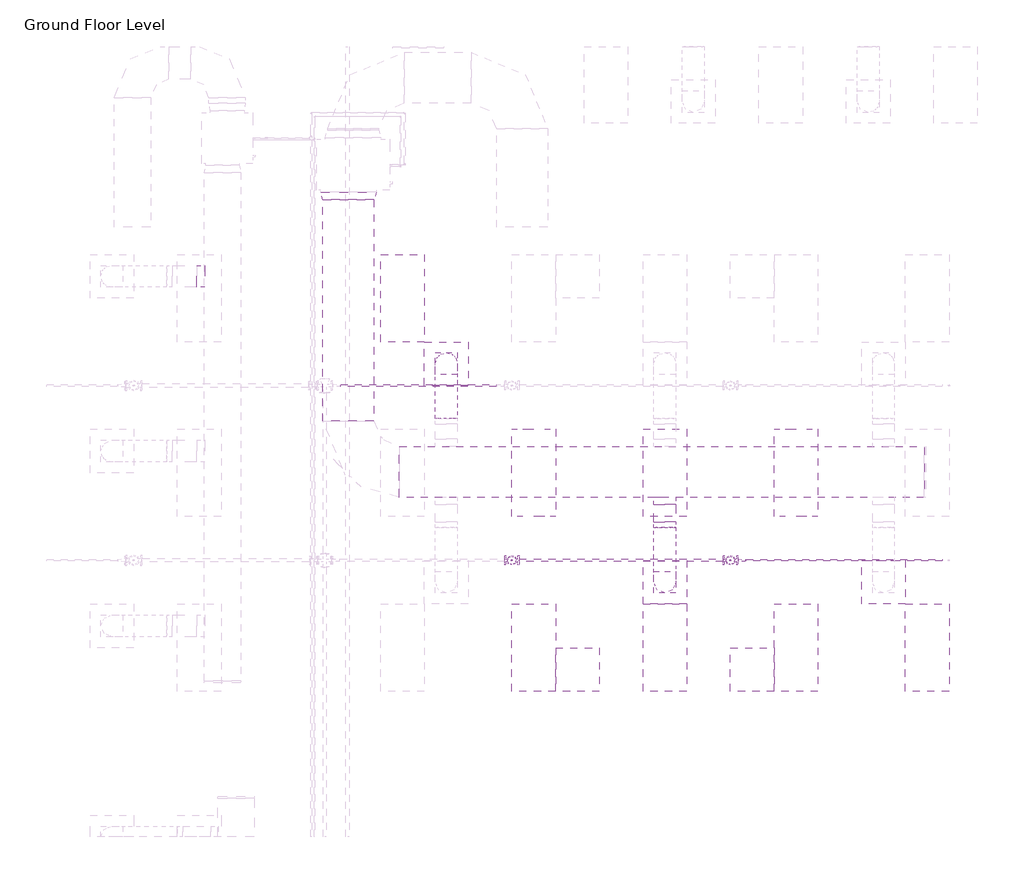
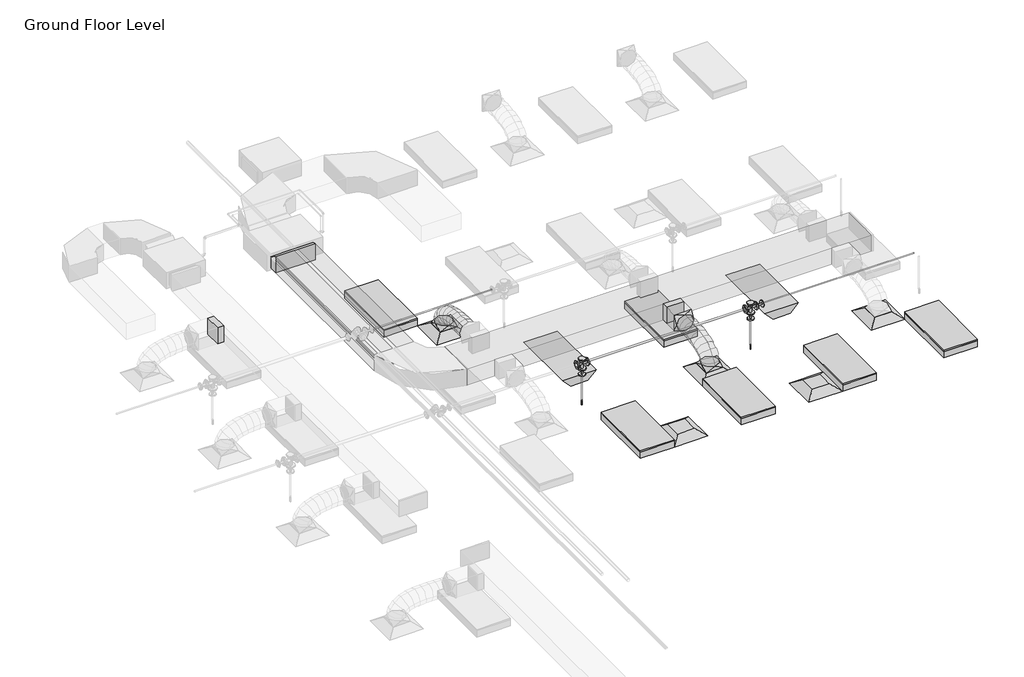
# One storey, part 31 of 74: 8 light fixtures, 6 duct fittings, 5 air terminals, 5 duct segments, 5 pipe fittings, 5 pipe segments, 2 fire suppression terminals.
"""IFC4 building model written with IfcOpenShell, lengths in millimetres."""

from ifc_helpers import new_model, si_unit, point, frame, frame_2d, origin, place, context, project, spatial, polyline, circle_curve, ellipse_curve, trimmed, segment, composite_curve, outline, extrude, transform, mapped, element, save
from ifc_brep_helpers import plane_surface, cylinder_surface, advanced_brep
from components import m_return_diffuser_600_x_600_face_300_x_300_connection_ff221211, m_rectangular_takeoff_standard_2be5eba1, m_rectangular_transition_angle_45_degree_dd3c9227, m_rectangular_to_round_transition_angle_45_degree_641efff0, m_sprinkler_dry_pendent_hosted_15_mm_dry_pendent_9bda8e11, m_emergency_recessed_lighting_fixture_600x1200_277_5b10b25d, m_troffer_light_parabolic_rectangular1_0600x1200mm_4_lamp_86473d4a, m_reducer_flanged_cs_class_150_standard_ccf252ad, m_tee_round_base_flanged_cs_class_150_standard_7e5987a1

model = new_model("IFC4")

# Units and contexts
model_context = context("Model", 3, world=origin())
ifc_project = project(units=[si_unit("LENGTHUNIT", "METRE", prefix="MILLI")], contexts=[model_context])

# Site, building, storey
site = spatial("IfcSite", under=ifc_project)
building = spatial("IfcBuilding", under=site)
storey = spatial("IfcBuildingStorey", under=building, Name="Ground Floor Level", Elevation=900.0)

# Air terminals
placement = place(None, origin())
m_return_diffuser_600_x_600_face_300_x_300_connection_shape = m_return_diffuser_600_x_600_face_300_x_300_connection_ff221211(model_context)
element("IfcAirTerminal", 1, ObjectType="M_Return Diffuser : 600 x 600 Face 300 x 300 Connection", at=placement, inside=storey, context=model_context, shape_type="MappedRepresentation", body=[
    mapped(m_return_diffuser_600_x_600_face_300_x_300_connection_shape, transform((9152.7672395, -14864.7846466, 3650.0), x_axis=(1.0, 0.0, 0.0), y_axis=(0.0, 1.0, 0.0), z_axis=(0.0, 0.0, 1.0))),
])
element("IfcAirTerminal", 2, ObjectType="M_Return Diffuser : 600 x 600 Face 300 x 300 Connection", at=placement, inside=storey, context=model_context, shape_type="MappedRepresentation", body=[
    mapped(m_return_diffuser_600_x_600_face_300_x_300_connection_shape, transform((11552.7672395, -14864.7846466, 3650.0), x_axis=(1.0, 0.0, 0.0), y_axis=(0.0, 1.0, 0.0), z_axis=(0.0, 0.0, 1.0))),
])
element("IfcAirTerminal", 3, ObjectType="M_Supply Diffuser : 600 x 600 Face 300 x 300 Connection", at=placement, inside=storey, context=model_context, shape_type="MappedRepresentation", body=[
    mapped(m_return_diffuser_600_x_600_face_300_x_300_connection_shape, transform((7352.7672395, -10664.7846466, 3650.0), x_axis=(1.0, 0.0, 0.0), y_axis=(0.0, 1.0, 0.0), z_axis=(0.0, 0.0, 1.0))),
])
element("IfcAirTerminal", 4, ObjectType="M_Supply Diffuser : 600 x 600 Face 300 x 300 Connection", at=placement, inside=storey, context=model_context, shape_type="MappedRepresentation", body=[
    mapped(m_return_diffuser_600_x_600_face_300_x_300_connection_shape, transform((10352.7672395, -13664.7846466, 3650.0), x_axis=(1.0, 0.0, 0.0), y_axis=(0.0, 1.0, 0.0), z_axis=(0.0, 0.0, 1.0))),
])
element("IfcAirTerminal", 5, ObjectType="M_Supply Diffuser : 600 x 600 Face 300 x 300 Connection", at=placement, inside=storey, context=model_context, shape_type="MappedRepresentation", body=[
    mapped(m_return_diffuser_600_x_600_face_300_x_300_connection_shape, transform((13352.7672395, -13664.7846466, 3650.0), x_axis=(1.0, 0.0, 0.0), y_axis=(0.0, 1.0, 0.0), z_axis=(0.0, 0.0, 1.0))),
])

# Duct fittings
m_rectangular_takeoff_standard_shape = m_rectangular_takeoff_standard_2be5eba1(model_context)
element("IfcDuctFitting", 6, ObjectType="M_Rectangular Takeoff : Standard", at=placement, inside=storey, context=model_context, shape_type="MappedRepresentation", body=[
    mapped(m_rectangular_takeoff_standard_shape, transform((10352.7672395, -12499.3358641, 4099.9875), x_axis=(0.0, -1.0, 0.0), y_axis=(-1.0, 0.0, 0.0), z_axis=(0.0, 0.0, -1.0))),
])
element("IfcDuctFitting", 7, ObjectType="M_Rectangular Takeoff : Standard", at=placement, inside=storey, context=model_context, shape_type="MappedRepresentation", body=[
    mapped(m_rectangular_takeoff_standard_shape, transform((4032.1581888, -9464.7846466, 4099.9974383), x_axis=(-1.0, 0.0, 0.0), y_axis=(0.0, 1.0, 0.0), z_axis=(0.0, 0.0, -1.0))),
])
m_rectangular_transition_angle_45_degree_shape = m_rectangular_transition_angle_45_degree_dd3c9227(model_context)
element("IfcDuctFitting", 8, ObjectType="M_Rectangular Transition - Angle : 45 Degree", at=placement, inside=storey, context=model_context, shape_type="MappedRepresentation", body=[
    mapped(m_rectangular_transition_angle_45_degree_shape, transform((6009.9139492, -8309.3358641, 4100.0), x_axis=(0.0, -1.0, 0.0), y_axis=(1.0, 0.0, 0.0), z_axis=(0.0, 0.0, 1.0))),
])
m_rectangular_to_round_transition_angle_45_degree_shape = m_rectangular_to_round_transition_angle_45_degree_641efff0(model_context)
element("IfcDuctFitting", 9, ObjectType="M_Rectangular to Round Transition - Angle : 45 Degree", at=placement, inside=storey, context=model_context, shape_type="MappedRepresentation", body=[
    mapped(m_rectangular_to_round_transition_angle_45_degree_shape, transform((7352.7672395, -10664.7846466, 3751.6), x_axis=(0.0, 0.0, 1.0), y_axis=(-1.0, 0.0, 0.0), z_axis=(0.0, -1.0, 0.0))),
])
element("IfcDuctFitting", 10, ObjectType="M_Rectangular to Round Transition - Angle : 45 Degree", at=placement, inside=storey, context=model_context, shape_type="MappedRepresentation", body=[
    mapped(m_rectangular_to_round_transition_angle_45_degree_shape, transform((10352.7672395, -13664.7846466, 3751.6), x_axis=(0.0, 0.0, 1.0), y_axis=(-1.0, 0.0, 0.0), z_axis=(0.0, -1.0, 0.0))),
])
element("IfcDuctFitting", 11, ObjectType="M_Rectangular to Round Transition - Angle : 45 Degree", at=placement, inside=storey, context=model_context, shape_type="MappedRepresentation", body=[
    mapped(m_rectangular_to_round_transition_angle_45_degree_shape, transform((10352.7672395, -12837.4362153, 4099.9875), x_axis=(0.0, -1.0, 0.0), y_axis=(1.0, 0.0, 0.0), z_axis=(0.0, 0.0, 1.0))),
])

# Duct segments
element("IfcDuctSegment", 12, ObjectType="Flex - Round", at=placement, inside=storey, context=model_context, shape_type="AdvancedBrep", body=[
    advanced_brep(
    [(7502.7672395, -10664.7846466, 3826.6), (7352.7672395, -10814.7846466, 3826.6), (7202.7672395, -10664.7846466, 3826.6), (7352.7672395, -10514.7846466, 3826.6), (7502.7672395, -10664.7846466, 3857.9382361), (7352.7672395, -10814.7846466, 3832.2943726), (7202.7672395, -10664.7846466, 3857.9382361), (7352.7672395, -10514.7846466, 3883.5820996), (7502.7672395, -10681.8009258, 3906.2508008), (7352.7672395, -10815.5381175, 3834.4336246), (7202.7672395, -10681.8009258, 3906.2508008), (7352.7672395, -10548.0637341, 3978.0679769), (7502.7672395, -10728.9857498, 3968.710741), (7352.7672395, -10833.1895095, 3857.7992917), (7202.7672395, -10728.9857498, 3968.710741), (7352.7672395, -10624.78199, 4079.6221903), (7502.7672395, -10800.5430984, 4016.0679312), (7352.7672395, -10869.4737825, 3881.8124958), (7202.7672395, -10800.5430984, 4016.0679312), (7352.7672395, -10731.6124143, 4150.3233665), (7502.7672395, -10890.6769515, 4050.4104815), (7352.7672395, -10934.2340294, 3906.4872652), (7202.7672395, -10890.6769515, 4050.4104815), (7352.7672395, -10847.1198737, 4194.3336978), (7502.7672395, -10993.591289, 4073.8265025), (7352.7672395, -11020.1487195, 3926.0353694), (7202.7672395, -10993.591289, 4073.8265025), (7352.7672395, -10967.0338584, 4221.6176356), (7502.7672395, -11103.4900905, 4088.4041045), (7352.7672395, -11118.6379564, 3939.0995418), (7202.7672395, -11103.4900905, 4088.4041045), (7352.7672395, -11088.3422246, 4237.7086671), (7502.7672395, -11214.5773359, 4096.2313978), (7352.7672395, -11222.0803018, 3946.3881695), (7202.7672395, -11214.5773359, 4096.2313978), (7352.7672395, -11207.0743701, 4246.074626), (7502.7672395, -11321.0570051, 4099.3964928), (7352.7672395, -11323.7471101, 3949.4102029), (7202.7672395, -11321.0570051, 4099.3964928), (7352.7672395, -11318.3669002, 4249.3827828), (7502.7672395, -11417.1330779, 4099.9875), (7352.7672395, -11416.2103779, 4249.9846621), (7202.7672395, -11417.1330779, 4099.9875), (7352.7672395, -11418.0557779, 3949.9903379)],
    [
        (0, 1, circle_curve(frame((7352.7672395, -10664.7846466, 3826.6), z_axis=(0.0, 0.0, -1.0), x_axis=(1.0, 0.0, 0.0)), 150.0)),
        (1, 2, circle_curve(frame((7352.7672395, -10664.7846466, 3826.6), z_axis=(0.0, 0.0, -1.0), x_axis=(1.0, 0.0, 0.0)), 150.0)),
        (2, 3, circle_curve(frame((7352.7672395, -10664.7846466, 3826.6), z_axis=(0.0, 0.0, -1.0), x_axis=(1.0, 0.0, 0.0)), 150.0)),
        (3, 0, circle_curve(frame((7352.7672395, -10664.7846466, 3826.6), z_axis=(0.0, 0.0, -1.0), x_axis=(1.0, 0.0, 0.0)), 150.0)),
        (0, 4),
        (4, 5, ellipse_curve(frame((7352.7672395, -10664.7846466, 3857.9382361), z_axis=(0.0, 0.16851424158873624, -0.9856992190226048), x_axis=(0.0, -0.9856992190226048, -0.16851424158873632)), 152.1762391, 150.0)),
        (5, 1),
        (5, 6, ellipse_curve(frame((7352.7672395, -10664.7846466, 3857.9382361), z_axis=(0.0, 0.16851424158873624, -0.9856992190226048), x_axis=(0.0, -0.9856992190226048, -0.16851424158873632)), 152.1762391, 150.0)),
        (6, 2),
        (6, 7, ellipse_curve(frame((7352.7672395, -10664.7846466, 3857.9382361), z_axis=(0.0, 0.16851424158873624, -0.9856992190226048), x_axis=(0.0, -0.9856992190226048, -0.16851424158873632)), 152.1762391, 150.0)),
        (7, 3),
        (7, 4, ellipse_curve(frame((7352.7672395, -10664.7846466, 3857.9382361), z_axis=(0.0, 0.16851424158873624, -0.9856992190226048), x_axis=(0.0, -0.9856992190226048, -0.16851424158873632)), 152.1762391, 150.0)),
        (4, 8),
        (8, 9, ellipse_curve(frame((7352.7672395, -10681.8009258, 3906.2508008), z_axis=(0.0, 0.4731028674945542, -0.8810071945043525), x_axis=(0.0, -0.8810071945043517, -0.47310286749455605)), 151.80034, 150.0)),
        (9, 5),
        (9, 10, ellipse_curve(frame((7352.7672395, -10681.8009258, 3906.2508008), z_axis=(0.0, 0.4731028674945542, -0.8810071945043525), x_axis=(0.0, -0.8810071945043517, -0.47310286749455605)), 151.80034, 150.0)),
        (10, 6),
        (10, 11, ellipse_curve(frame((7352.7672395, -10681.8009258, 3906.2508008), z_axis=(0.0, 0.4731028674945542, -0.8810071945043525), x_axis=(0.0, -0.8810071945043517, -0.47310286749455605)), 151.80034, 150.0)),
        (11, 7),
        (11, 8, ellipse_curve(frame((7352.7672395, -10681.8009258, 3906.2508008), z_axis=(0.0, 0.4731028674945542, -0.8810071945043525), x_axis=(0.0, -0.8810071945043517, -0.47310286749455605)), 151.80034, 150.0)),
        (8, 12),
        (12, 13, ellipse_curve(frame((7352.7672395, -10728.9857498, 3968.710741), z_axis=(0.0, 0.7288014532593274, -0.6847250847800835), x_axis=(0.0, -0.6847250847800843, -0.7288014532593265)), 152.1833536, 150.0)),
        (13, 9),
        (13, 14, ellipse_curve(frame((7352.7672395, -10728.9857498, 3968.710741), z_axis=(0.0, 0.7288014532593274, -0.6847250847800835), x_axis=(0.0, -0.6847250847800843, -0.7288014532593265)), 152.1833536, 150.0)),
        (14, 10),
        (14, 15, ellipse_curve(frame((7352.7672395, -10728.9857498, 3968.710741), z_axis=(0.0, 0.7288014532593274, -0.6847250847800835), x_axis=(0.0, -0.6847250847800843, -0.7288014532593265)), 152.1833536, 150.0)),
        (15, 11),
        (15, 12, ellipse_curve(frame((7352.7672395, -10728.9857498, 3968.710741), z_axis=(0.0, 0.7288014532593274, -0.6847250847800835), x_axis=(0.0, -0.6847250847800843, -0.7288014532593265)), 152.1833536, 150.0)),
        (12, 16),
        (16, 17, ellipse_curve(frame((7352.7672395, -10800.5430984, 4016.0679312), z_axis=(0.0, 0.8895974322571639, -0.45674545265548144), x_axis=(0.0, -0.45674545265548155, -0.889597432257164)), 150.9170671, 150.0)),
        (17, 13),
        (17, 18, ellipse_curve(frame((7352.7672395, -10800.5430984, 4016.0679312), z_axis=(0.0, 0.8895974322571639, -0.45674545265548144), x_axis=(0.0, -0.45674545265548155, -0.889597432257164)), 150.9170671, 150.0)),
        (18, 14),
        (18, 19, ellipse_curve(frame((7352.7672395, -10800.5430984, 4016.0679312), z_axis=(0.0, 0.8895974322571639, -0.45674545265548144), x_axis=(0.0, -0.45674545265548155, -0.889597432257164)), 150.9170671, 150.0)),
        (19, 15),
        (19, 16, ellipse_curve(frame((7352.7672395, -10800.5430984, 4016.0679312), z_axis=(0.0, 0.8895974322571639, -0.45674545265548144), x_axis=(0.0, -0.45674545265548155, -0.889597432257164)), 150.9170671, 150.0)),
        (16, 20),
        (20, 21, ellipse_curve(frame((7352.7672395, -10890.6769515, 4050.4104815), z_axis=(0.0, 0.9571277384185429, -0.28966617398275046), x_axis=(0.0, -0.2896661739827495, -0.9571277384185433)), 150.3699146, 150.0)),
        (21, 17),
        (21, 22, ellipse_curve(frame((7352.7672395, -10890.6769515, 4050.4104815), z_axis=(0.0, 0.9571277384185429, -0.28966617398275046), x_axis=(0.0, -0.2896661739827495, -0.9571277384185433)), 150.3699146, 150.0)),
        (22, 18),
        (22, 23, ellipse_curve(frame((7352.7672395, -10890.6769515, 4050.4104815), z_axis=(0.0, 0.9571277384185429, -0.28966617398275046), x_axis=(0.0, -0.2896661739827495, -0.9571277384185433)), 150.3699146, 150.0)),
        (23, 19),
        (23, 20, ellipse_curve(frame((7352.7672395, -10890.6769515, 4050.4104815), z_axis=(0.0, 0.9571277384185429, -0.28966617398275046), x_axis=(0.0, -0.2896661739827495, -0.9571277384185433)), 150.3699146, 150.0)),
        (20, 24),
        (24, 25, ellipse_curve(frame((7352.7672395, -10993.591289, 4073.8265025), z_axis=(0.0, 0.9842355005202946, -0.17686288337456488), x_axis=(0.0, -0.17686288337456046, -0.9842355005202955)), 150.1583036, 150.0)),
        (25, 21),
        (25, 26, ellipse_curve(frame((7352.7672395, -10993.591289, 4073.8265025), z_axis=(0.0, 0.9842355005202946, -0.17686288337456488), x_axis=(0.0, -0.17686288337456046, -0.9842355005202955)), 150.1583036, 150.0)),
        (26, 22),
        (26, 27, ellipse_curve(frame((7352.7672395, -10993.591289, 4073.8265025), z_axis=(0.0, 0.9842355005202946, -0.17686288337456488), x_axis=(0.0, -0.17686288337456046, -0.9842355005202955)), 150.1583036, 150.0)),
        (27, 23),
        (27, 24, ellipse_curve(frame((7352.7672395, -10993.591289, 4073.8265025), z_axis=(0.0, 0.9842355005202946, -0.17686288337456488), x_axis=(0.0, -0.17686288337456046, -0.9842355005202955)), 150.1583036, 150.0)),
        (24, 28),
        (28, 29, ellipse_curve(frame((7352.7672395, -11103.4900905, 4088.4041045), z_axis=(0.0, 0.9948927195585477, -0.10093798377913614), x_axis=(0.0, -0.1009379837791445, -0.9948927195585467)), 150.0710174, 150.0)),
        (29, 25),
        (29, 30, ellipse_curve(frame((7352.7672395, -11103.4900905, 4088.4041045), z_axis=(0.0, 0.9948927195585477, -0.10093798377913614), x_axis=(0.0, -0.1009379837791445, -0.9948927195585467)), 150.0710174, 150.0)),
        (30, 26),
        (30, 31, ellipse_curve(frame((7352.7672395, -11103.4900905, 4088.4041045), z_axis=(0.0, 0.9948927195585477, -0.10093798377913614), x_axis=(0.0, -0.1009379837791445, -0.9948927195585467)), 150.0710174, 150.0)),
        (31, 27),
        (31, 28, ellipse_curve(frame((7352.7672395, -11103.4900905, 4088.4041045), z_axis=(0.0, 0.9948927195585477, -0.10093798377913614), x_axis=(0.0, -0.1009379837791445, -0.9948927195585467)), 150.0710174, 150.0)),
        (28, 32),
        (32, 33, ellipse_curve(frame((7352.7672395, -11214.5773359, 4096.2313978), z_axis=(0.0, 0.9987487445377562, -0.05000945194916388), x_axis=(0.0, -0.05000945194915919, -0.9987487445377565)), 150.0309553, 150.0)),
        (33, 29),
        (33, 34, ellipse_curve(frame((7352.7672395, -11214.5773359, 4096.2313978), z_axis=(0.0, 0.9987487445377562, -0.05000945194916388), x_axis=(0.0, -0.05000945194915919, -0.9987487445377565)), 150.0309553, 150.0)),
        (34, 30),
        (34, 35, ellipse_curve(frame((7352.7672395, -11214.5773359, 4096.2313978), z_axis=(0.0, 0.9987487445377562, -0.05000945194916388), x_axis=(0.0, -0.05000945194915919, -0.9987487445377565)), 150.0309553, 150.0)),
        (35, 31),
        (35, 32, ellipse_curve(frame((7352.7672395, -11214.5773359, 4096.2313978), z_axis=(0.0, 0.9987487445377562, -0.05000945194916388), x_axis=(0.0, -0.05000945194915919, -0.9987487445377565)), 150.0309553, 150.0)),
        (32, 36),
        (36, 37, ellipse_curve(frame((7352.7672395, -11321.0570051, 4099.3964928), z_axis=(0.0, 0.9998391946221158, -0.017932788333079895), x_axis=(0.0, -0.017932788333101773, -0.9998391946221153)), 150.0104124, 150.0)),
        (37, 33),
        (37, 38, ellipse_curve(frame((7352.7672395, -11321.0570051, 4099.3964928), z_axis=(0.0, 0.9998391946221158, -0.017932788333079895), x_axis=(0.0, -0.017932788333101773, -0.9998391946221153)), 150.0104124, 150.0)),
        (38, 34),
        (38, 39, ellipse_curve(frame((7352.7672395, -11321.0570051, 4099.3964928), z_axis=(0.0, 0.9998391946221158, -0.017932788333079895), x_axis=(0.0, -0.017932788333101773, -0.9998391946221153)), 150.0104124, 150.0)),
        (39, 35),
        (39, 36, ellipse_curve(frame((7352.7672395, -11321.0570051, 4099.3964928), z_axis=(0.0, 0.9998391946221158, -0.017932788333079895), x_axis=(0.0, -0.017932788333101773, -0.9998391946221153)), 150.0104124, 150.0)),
        (40, 41, circle_curve(frame((7352.7672395, -11417.1330779, 4099.9875), z_axis=(0.0, -0.999981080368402, 0.0061513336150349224), x_axis=(1.0, 0.0, 0.0)), 150.0)),
        (41, 42, circle_curve(frame((7352.7672395, -11417.1330779, 4099.9875), z_axis=(0.0, -0.999981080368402, 0.0061513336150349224), x_axis=(1.0, 0.0, 0.0)), 150.0)),
        (42, 43, circle_curve(frame((7352.7672395, -11417.1330779, 4099.9875), z_axis=(0.0, -0.999981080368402, 0.0061513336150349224), x_axis=(1.0, 0.0, 0.0)), 150.0)),
        (43, 40, circle_curve(frame((7352.7672395, -11417.1330779, 4099.9875), z_axis=(0.0, -0.999981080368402, 0.0061513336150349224), x_axis=(1.0, 0.0, 0.0)), 150.0)),
        (36, 40),
        (43, 37),
        (42, 38),
        (41, 39),
    ],
    [
        plane_surface(frame((7352.7672395, -10814.7846466, 3826.6), z_axis=(0.0, 0.0, -1.0), x_axis=(1.0, 0.0, 0.0))),
        cylinder_surface(frame((7352.7672395, -10664.7846466, 3826.6), z_axis=(0.0, 0.0, -1.0), x_axis=(1.0, 0.0, 0.0)), 150.0),
        cylinder_surface(frame((7352.7672395, -10664.7846466, 3857.9382361), z_axis=(0.0, 0.3322087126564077, -0.943205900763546), x_axis=(1.0, 0.0, 0.0)), 150.0),
        cylinder_surface(frame((7352.7672395, -10681.8009258, 3906.2508008), z_axis=(0.0, 0.6027750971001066, -0.797911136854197), x_axis=(1.0, 0.0, 0.0)), 150.0),
        cylinder_surface(frame((7352.7672395, -10728.9857498, 3968.710741), z_axis=(0.0, 0.8339157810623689, -0.5518917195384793), x_axis=(1.0, 0.0, 0.0)), 150.0),
        cylinder_surface(frame((7352.7672395, -10800.5430984, 4016.0679312), z_axis=(0.0, 0.9344675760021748, -0.3560482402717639), x_axis=(1.0, 0.0, 0.0)), 150.0),
        cylinder_surface(frame((7352.7672395, -10890.6769515, 4050.4104815), z_axis=(0.0, 0.9750787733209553, -0.22185893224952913), x_axis=(1.0, 0.0, 0.0)), 150.0),
        cylinder_surface(frame((7352.7672395, -10993.591289, 4073.8265025), z_axis=(0.0, 0.9913169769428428, -0.13149392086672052), x_axis=(1.0, 0.0, 0.0)), 150.0),
        cylinder_surface(frame((7352.7672395, -11103.4900905, 4088.4041045), z_axis=(0.0, 0.9975268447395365, -0.07028651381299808), x_axis=(1.0, 0.0, 0.0)), 150.0),
        cylinder_surface(frame((7352.7672395, -11214.5773359, 4096.2313978), z_axis=(0.0, 0.999558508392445, -0.029711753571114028), x_axis=(1.0, 0.0, 0.0)), 150.0),
        plane_surface(frame((7352.7672395, -11418.0557779, 3949.9903379), z_axis=(0.0, -0.999981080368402, 0.006151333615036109), x_axis=(1.0, 0.0, 0.0))),
        cylinder_surface(frame((7352.7672395, -11321.0570051, 4099.3964928), z_axis=(0.0, 0.999981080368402, -0.0061513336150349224), x_axis=(1.0, 0.0, 0.0)), 150.0),
    ],
    [
        (0, [[1, 2, 3, 4]]),
        (1, [[-1, 5, 6, 7]]),
        (1, [[-2, -7, 8, 9]]),
        (1, [[-3, -9, 10, 11]]),
        (1, [[-4, -11, 12, -5]]),
        (2, [[-6, 13, 14, 15]]),
        (2, [[-8, -15, 16, 17]]),
        (2, [[-10, -17, 18, 19]]),
        (2, [[-12, -19, 20, -13]]),
        (3, [[-14, 21, 22, 23]]),
        (3, [[-16, -23, 24, 25]]),
        (3, [[-18, -25, 26, 27]]),
        (3, [[-20, -27, 28, -21]]),
        (4, [[-22, 29, 30, 31]]),
        (4, [[-24, -31, 32, 33]]),
        (4, [[-26, -33, 34, 35]]),
        (4, [[-28, -35, 36, -29]]),
        (5, [[-30, 37, 38, 39]]),
        (5, [[-32, -39, 40, 41]]),
        (5, [[-34, -41, 42, 43]]),
        (5, [[-36, -43, 44, -37]]),
        (6, [[-38, 45, 46, 47]]),
        (6, [[-40, -47, 48, 49]]),
        (6, [[-42, -49, 50, 51]]),
        (6, [[-44, -51, 52, -45]]),
        (7, [[-46, 53, 54, 55]]),
        (7, [[-48, -55, 56, 57]]),
        (7, [[-50, -57, 58, 59]]),
        (7, [[-52, -59, 60, -53]]),
        (8, [[-54, 61, 62, 63]]),
        (8, [[-56, -63, 64, 65]]),
        (8, [[-58, -65, 66, 67]]),
        (8, [[-60, -67, 68, -61]]),
        (9, [[-62, 69, 70, 71]]),
        (9, [[-64, -71, 72, 73]]),
        (9, [[-66, -73, 74, 75]]),
        (9, [[-68, -75, 76, -69]]),
        (10, [[77, 78, 79, 80]]),
        (11, [[-70, 81, -80, 82]]),
        (11, [[-72, -82, -79, 83]]),
        (11, [[-74, -83, -78, 84]]),
        (11, [[-76, -84, -77, -81]]),
    ],
),
])
element("IfcDuctSegment", 13, ObjectType="Flex - Round", at=placement, inside=storey, context=model_context, shape_type="AdvancedBrep", body=[
    advanced_brep(
    [(10502.7672395, -13664.7846466, 3826.6), (10352.7672395, -13814.7846466, 3826.6), (10202.7672395, -13664.7846466, 3826.6), (10352.7672395, -13514.7846466, 3826.6), (10502.7672395, -13664.7846466, 3857.9382361), (10352.7672395, -13814.7846466, 3883.5820996), (10202.7672395, -13664.7846466, 3857.9382361), (10352.7672395, -13514.7846466, 3832.2943726), (10502.7672395, -13647.7683675, 3906.2508008), (10352.7672395, -13781.5055592, 3978.0679769), (10202.7672395, -13647.7683675, 3906.2508008), (10352.7672395, -13514.0311758, 3834.4336246), (10502.7672395, -13600.5835435, 3968.710741), (10352.7672395, -13704.7873032, 4079.6221903), (10202.7672395, -13600.5835435, 3968.710741), (10352.7672395, -13496.3797837, 3857.7992917), (10502.7672395, -13529.0261948, 4016.0679312), (10352.7672395, -13597.9568789, 4150.3233665), (10202.7672395, -13529.0261948, 4016.0679312), (10352.7672395, -13460.0955107, 3881.8124958), (10502.7672395, -13438.8923417, 4050.4104815), (10352.7672395, -13482.4494195, 4194.3336978), (10202.7672395, -13438.8923417, 4050.4104815), (10352.7672395, -13395.3352638, 3906.4872652), (10502.7672395, -13335.9780043, 4073.8265025), (10352.7672395, -13362.5354348, 4221.6176356), (10202.7672395, -13335.9780043, 4073.8265025), (10352.7672395, -13309.4205737, 3926.0353694), (10502.7672395, -13226.0792027, 4088.4041045), (10352.7672395, -13241.2270687, 4237.7086671), (10202.7672395, -13226.0792027, 4088.4041045), (10352.7672395, -13210.9313368, 3939.0995418), (10502.7672395, -13114.9919573, 4096.2313978), (10352.7672395, -13122.4949231, 4246.074626), (10202.7672395, -13114.9919573, 4096.2313978), (10352.7672395, -13107.4889914, 3946.3881695), (10502.7672395, -13008.5122881, 4099.3964928), (10352.7672395, -13011.2023931, 4249.3827828), (10202.7672395, -13008.5122881, 4099.3964928), (10352.7672395, -13005.8221831, 3949.4102029), (10502.7672395, -12912.4362153, 4099.9875), (10352.7672395, -12911.5135153, 3949.9903379), (10202.7672395, -12912.4362153, 4099.9875), (10352.7672395, -12913.3589154, 4249.9846621)],
    [
        (0, 1, circle_curve(frame((10352.7672395, -13664.7846466, 3826.6), z_axis=(0.0, 0.0, -1.0), x_axis=(1.0, 0.0, 0.0)), 150.0)),
        (1, 2, circle_curve(frame((10352.7672395, -13664.7846466, 3826.6), z_axis=(0.0, 0.0, -1.0), x_axis=(1.0, 0.0, 0.0)), 150.0)),
        (2, 3, circle_curve(frame((10352.7672395, -13664.7846466, 3826.6), z_axis=(0.0, 0.0, -1.0), x_axis=(1.0, 0.0, 0.0)), 150.0)),
        (3, 0, circle_curve(frame((10352.7672395, -13664.7846466, 3826.6), z_axis=(0.0, 0.0, -1.0), x_axis=(1.0, 0.0, 0.0)), 150.0)),
        (0, 4),
        (4, 5, ellipse_curve(frame((10352.7672395, -13664.7846466, 3857.9382361), z_axis=(0.0, -0.16851424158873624, -0.9856992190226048), x_axis=(0.0, 0.9856992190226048, -0.16851424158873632)), 152.1762391, 150.0)),
        (5, 1),
        (5, 6, ellipse_curve(frame((10352.7672395, -13664.7846466, 3857.9382361), z_axis=(0.0, -0.16851424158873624, -0.9856992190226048), x_axis=(0.0, 0.9856992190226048, -0.16851424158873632)), 152.1762391, 150.0)),
        (6, 2),
        (6, 7, ellipse_curve(frame((10352.7672395, -13664.7846466, 3857.9382361), z_axis=(0.0, -0.16851424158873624, -0.9856992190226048), x_axis=(0.0, 0.9856992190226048, -0.16851424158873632)), 152.1762391, 150.0)),
        (7, 3),
        (7, 4, ellipse_curve(frame((10352.7672395, -13664.7846466, 3857.9382361), z_axis=(0.0, -0.16851424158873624, -0.9856992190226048), x_axis=(0.0, 0.9856992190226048, -0.16851424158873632)), 152.1762391, 150.0)),
        (4, 8),
        (8, 9, ellipse_curve(frame((10352.7672395, -13647.7683675, 3906.2508008), z_axis=(0.0, -0.4731028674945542, -0.8810071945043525), x_axis=(0.0, 0.8810071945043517, -0.47310286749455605)), 151.80034, 150.0)),
        (9, 5),
        (9, 10, ellipse_curve(frame((10352.7672395, -13647.7683675, 3906.2508008), z_axis=(0.0, -0.4731028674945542, -0.8810071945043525), x_axis=(0.0, 0.8810071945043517, -0.47310286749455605)), 151.80034, 150.0)),
        (10, 6),
        (10, 11, ellipse_curve(frame((10352.7672395, -13647.7683675, 3906.2508008), z_axis=(0.0, -0.4731028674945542, -0.8810071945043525), x_axis=(0.0, 0.8810071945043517, -0.47310286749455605)), 151.80034, 150.0)),
        (11, 7),
        (11, 8, ellipse_curve(frame((10352.7672395, -13647.7683675, 3906.2508008), z_axis=(0.0, -0.4731028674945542, -0.8810071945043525), x_axis=(0.0, 0.8810071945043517, -0.47310286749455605)), 151.80034, 150.0)),
        (8, 12),
        (12, 13, ellipse_curve(frame((10352.7672395, -13600.5835435, 3968.710741), z_axis=(0.0, -0.728801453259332, -0.6847250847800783), x_axis=(0.0, 0.6847250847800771, -0.7288014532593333)), 152.1833536, 150.0)),
        (13, 9),
        (13, 14, ellipse_curve(frame((10352.7672395, -13600.5835435, 3968.710741), z_axis=(0.0, -0.728801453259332, -0.6847250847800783), x_axis=(0.0, 0.6847250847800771, -0.7288014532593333)), 152.1833536, 150.0)),
        (14, 10),
        (14, 15, ellipse_curve(frame((10352.7672395, -13600.5835435, 3968.710741), z_axis=(0.0, -0.728801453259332, -0.6847250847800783), x_axis=(0.0, 0.6847250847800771, -0.7288014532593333)), 152.1833536, 150.0)),
        (15, 11),
        (15, 12, ellipse_curve(frame((10352.7672395, -13600.5835435, 3968.710741), z_axis=(0.0, -0.728801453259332, -0.6847250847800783), x_axis=(0.0, 0.6847250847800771, -0.7288014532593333)), 152.1833536, 150.0)),
        (12, 16),
        (16, 17, ellipse_curve(frame((10352.7672395, -13529.0261948, 4016.0679312), z_axis=(0.0, -0.889597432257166, -0.45674545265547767), x_axis=(0.0, 0.4567454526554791, -0.8895974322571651)), 150.9170671, 150.0)),
        (17, 13),
        (17, 18, ellipse_curve(frame((10352.7672395, -13529.0261948, 4016.0679312), z_axis=(0.0, -0.889597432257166, -0.45674545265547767), x_axis=(0.0, 0.4567454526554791, -0.8895974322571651)), 150.9170671, 150.0)),
        (18, 14),
        (18, 19, ellipse_curve(frame((10352.7672395, -13529.0261948, 4016.0679312), z_axis=(0.0, -0.889597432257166, -0.45674545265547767), x_axis=(0.0, 0.4567454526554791, -0.8895974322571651)), 150.9170671, 150.0)),
        (19, 15),
        (19, 16, ellipse_curve(frame((10352.7672395, -13529.0261948, 4016.0679312), z_axis=(0.0, -0.889597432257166, -0.45674545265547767), x_axis=(0.0, 0.4567454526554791, -0.8895974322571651)), 150.9170671, 150.0)),
        (16, 20),
        (20, 21, ellipse_curve(frame((10352.7672395, -13438.8923417, 4050.4104815), z_axis=(0.0, -0.9571277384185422, -0.28966617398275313), x_axis=(0.0, 0.28966617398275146, -0.9571277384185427)), 150.3699146, 150.0)),
        (21, 17),
        (21, 22, ellipse_curve(frame((10352.7672395, -13438.8923417, 4050.4104815), z_axis=(0.0, -0.9571277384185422, -0.28966617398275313), x_axis=(0.0, 0.28966617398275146, -0.9571277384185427)), 150.3699146, 150.0)),
        (22, 18),
        (22, 23, ellipse_curve(frame((10352.7672395, -13438.8923417, 4050.4104815), z_axis=(0.0, -0.9571277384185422, -0.28966617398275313), x_axis=(0.0, 0.28966617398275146, -0.9571277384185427)), 150.3699146, 150.0)),
        (23, 19),
        (23, 20, ellipse_curve(frame((10352.7672395, -13438.8923417, 4050.4104815), z_axis=(0.0, -0.9571277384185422, -0.28966617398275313), x_axis=(0.0, 0.28966617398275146, -0.9571277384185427)), 150.3699146, 150.0)),
        (20, 24),
        (24, 25, ellipse_curve(frame((10352.7672395, -13335.9780043, 4073.8265025), z_axis=(0.0, -0.9842355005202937, -0.17686288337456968), x_axis=(0.0, 0.17686288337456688, -0.9842355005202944)), 150.1583036, 150.0)),
        (25, 21),
        (25, 26, ellipse_curve(frame((10352.7672395, -13335.9780043, 4073.8265025), z_axis=(0.0, -0.9842355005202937, -0.17686288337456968), x_axis=(0.0, 0.17686288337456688, -0.9842355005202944)), 150.1583036, 150.0)),
        (26, 22),
        (26, 27, ellipse_curve(frame((10352.7672395, -13335.9780043, 4073.8265025), z_axis=(0.0, -0.9842355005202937, -0.17686288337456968), x_axis=(0.0, 0.17686288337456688, -0.9842355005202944)), 150.1583036, 150.0)),
        (27, 23),
        (27, 24, ellipse_curve(frame((10352.7672395, -13335.9780043, 4073.8265025), z_axis=(0.0, -0.9842355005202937, -0.17686288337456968), x_axis=(0.0, 0.17686288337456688, -0.9842355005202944)), 150.1583036, 150.0)),
        (24, 28),
        (28, 29, ellipse_curve(frame((10352.7672395, -13226.0792027, 4088.4041045), z_axis=(0.0, -0.9948927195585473, -0.10093798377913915), x_axis=(0.0, 0.10093798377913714, -0.9948927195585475)), 150.0710174, 150.0)),
        (29, 25),
        (29, 30, ellipse_curve(frame((10352.7672395, -13226.0792027, 4088.4041045), z_axis=(0.0, -0.9948927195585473, -0.10093798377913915), x_axis=(0.0, 0.10093798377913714, -0.9948927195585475)), 150.0710174, 150.0)),
        (30, 26),
        (30, 31, ellipse_curve(frame((10352.7672395, -13226.0792027, 4088.4041045), z_axis=(0.0, -0.9948927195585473, -0.10093798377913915), x_axis=(0.0, 0.10093798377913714, -0.9948927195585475)), 150.0710174, 150.0)),
        (31, 27),
        (31, 28, ellipse_curve(frame((10352.7672395, -13226.0792027, 4088.4041045), z_axis=(0.0, -0.9948927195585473, -0.10093798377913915), x_axis=(0.0, 0.10093798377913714, -0.9948927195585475)), 150.0710174, 150.0)),
        (28, 32),
        (32, 33, ellipse_curve(frame((10352.7672395, -13114.9919573, 4096.2313978), z_axis=(0.0, -0.9987487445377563, -0.050009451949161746), x_axis=(0.0, 0.05000945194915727, -0.9987487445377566)), 150.0309553, 150.0)),
        (33, 29),
        (33, 34, ellipse_curve(frame((10352.7672395, -13114.9919573, 4096.2313978), z_axis=(0.0, -0.9987487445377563, -0.050009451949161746), x_axis=(0.0, 0.05000945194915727, -0.9987487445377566)), 150.0309553, 150.0)),
        (34, 30),
        (34, 35, ellipse_curve(frame((10352.7672395, -13114.9919573, 4096.2313978), z_axis=(0.0, -0.9987487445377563, -0.050009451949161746), x_axis=(0.0, 0.05000945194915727, -0.9987487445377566)), 150.0309553, 150.0)),
        (35, 31),
        (35, 32, ellipse_curve(frame((10352.7672395, -13114.9919573, 4096.2313978), z_axis=(0.0, -0.9987487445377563, -0.050009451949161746), x_axis=(0.0, 0.05000945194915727, -0.9987487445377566)), 150.0309553, 150.0)),
        (32, 36),
        (36, 37, ellipse_curve(frame((10352.7672395, -13008.5122881, 4099.3964928), z_axis=(0.0, -0.9998391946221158, -0.017932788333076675), x_axis=(0.0, 0.01793278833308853, -0.9998391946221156)), 150.0104124, 150.0)),
        (37, 33),
        (37, 38, ellipse_curve(frame((10352.7672395, -13008.5122881, 4099.3964928), z_axis=(0.0, -0.9998391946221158, -0.017932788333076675), x_axis=(0.0, 0.01793278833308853, -0.9998391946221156)), 150.0104124, 150.0)),
        (38, 34),
        (38, 39, ellipse_curve(frame((10352.7672395, -13008.5122881, 4099.3964928), z_axis=(0.0, -0.9998391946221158, -0.017932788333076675), x_axis=(0.0, 0.01793278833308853, -0.9998391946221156)), 150.0104124, 150.0)),
        (39, 35),
        (39, 36, ellipse_curve(frame((10352.7672395, -13008.5122881, 4099.3964928), z_axis=(0.0, -0.9998391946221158, -0.017932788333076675), x_axis=(0.0, 0.01793278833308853, -0.9998391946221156)), 150.0104124, 150.0)),
        (40, 41, circle_curve(frame((10352.7672395, -12912.4362153, 4099.9875), z_axis=(0.0, 0.9999810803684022, 0.0061513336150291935), x_axis=(1.0, 0.0, 0.0)), 150.0)),
        (41, 42, circle_curve(frame((10352.7672395, -12912.4362153, 4099.9875), z_axis=(0.0, 0.9999810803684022, 0.0061513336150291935), x_axis=(1.0, 0.0, 0.0)), 150.0)),
        (42, 43, circle_curve(frame((10352.7672395, -12912.4362153, 4099.9875), z_axis=(0.0, 0.9999810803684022, 0.0061513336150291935), x_axis=(1.0, 0.0, 0.0)), 150.0)),
        (43, 40, circle_curve(frame((10352.7672395, -12912.4362153, 4099.9875), z_axis=(0.0, 0.9999810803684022, 0.0061513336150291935), x_axis=(1.0, 0.0, 0.0)), 150.0)),
        (36, 40),
        (43, 37),
        (42, 38),
        (41, 39),
    ],
    [
        plane_surface(frame((10352.7672395, -13814.7846466, 3826.6), z_axis=(0.0, 0.0, -1.0), x_axis=(1.0, 0.0, 0.0))),
        cylinder_surface(frame((10352.7672395, -13664.7846466, 3826.6), z_axis=(0.0, 0.0, -1.0), x_axis=(1.0, 0.0, 0.0)), 150.0),
        cylinder_surface(frame((10352.7672395, -13664.7846466, 3857.9382361), z_axis=(0.0, -0.3322087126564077, -0.943205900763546), x_axis=(1.0, 0.0, 0.0)), 150.0),
        cylinder_surface(frame((10352.7672395, -13647.7683675, 3906.2508008), z_axis=(0.0, -0.6027750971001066, -0.797911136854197), x_axis=(1.0, 0.0, 0.0)), 150.0),
        cylinder_surface(frame((10352.7672395, -13600.5835435, 3968.710741), z_axis=(0.0, -0.8339157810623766, -0.5518917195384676), x_axis=(1.0, 0.0, 0.0)), 150.0),
        cylinder_surface(frame((10352.7672395, -13529.0261948, 4016.0679312), z_axis=(0.0, -0.9344675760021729, -0.3560482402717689), x_axis=(1.0, 0.0, 0.0)), 150.0),
        cylinder_surface(frame((10352.7672395, -13438.8923417, 4050.4104815), z_axis=(0.0, -0.9750787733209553, -0.2218589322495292), x_axis=(1.0, 0.0, 0.0)), 150.0),
        cylinder_surface(frame((10352.7672395, -13335.9780043, 4073.8265025), z_axis=(0.0, -0.9913169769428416, -0.13149392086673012), x_axis=(1.0, 0.0, 0.0)), 150.0),
        cylinder_surface(frame((10352.7672395, -13226.0792027, 4088.4041045), z_axis=(0.0, -0.9975268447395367, -0.07028651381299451), x_axis=(1.0, 0.0, 0.0)), 150.0),
        cylinder_surface(frame((10352.7672395, -13114.9919573, 4096.2313978), z_axis=(0.0, -0.999558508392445, -0.02971175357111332), x_axis=(1.0, 0.0, 0.0)), 150.0),
        plane_surface(frame((10352.7672395, -12913.3589154, 4249.9846621), z_axis=(0.0, 0.9999810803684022, 0.006151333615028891), x_axis=(1.0, 0.0, 0.0))),
        cylinder_surface(frame((10352.7672395, -13008.5122881, 4099.3964928), z_axis=(0.0, -0.9999810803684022, -0.0061513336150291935), x_axis=(1.0, 0.0, 0.0)), 150.0),
    ],
    [
        (0, [[1, 2, 3, 4]]),
        (1, [[-1, 5, 6, 7]]),
        (1, [[-2, -7, 8, 9]]),
        (1, [[-3, -9, 10, 11]]),
        (1, [[-4, -11, 12, -5]]),
        (2, [[-6, 13, 14, 15]]),
        (2, [[-8, -15, 16, 17]]),
        (2, [[-10, -17, 18, 19]]),
        (2, [[-12, -19, 20, -13]]),
        (3, [[-14, 21, 22, 23]]),
        (3, [[-16, -23, 24, 25]]),
        (3, [[-18, -25, 26, 27]]),
        (3, [[-20, -27, 28, -21]]),
        (4, [[-22, 29, 30, 31]]),
        (4, [[-24, -31, 32, 33]]),
        (4, [[-26, -33, 34, 35]]),
        (4, [[-28, -35, 36, -29]]),
        (5, [[-30, 37, 38, 39]]),
        (5, [[-32, -39, 40, 41]]),
        (5, [[-34, -41, 42, 43]]),
        (5, [[-36, -43, 44, -37]]),
        (6, [[-38, 45, 46, 47]]),
        (6, [[-40, -47, 48, 49]]),
        (6, [[-42, -49, 50, 51]]),
        (6, [[-44, -51, 52, -45]]),
        (7, [[-46, 53, 54, 55]]),
        (7, [[-48, -55, 56, 57]]),
        (7, [[-50, -57, 58, 59]]),
        (7, [[-52, -59, 60, -53]]),
        (8, [[-54, 61, 62, 63]]),
        (8, [[-56, -63, 64, 65]]),
        (8, [[-58, -65, 66, 67]]),
        (8, [[-60, -67, 68, -61]]),
        (9, [[-62, 69, 70, 71]]),
        (9, [[-64, -71, 72, 73]]),
        (9, [[-66, -73, 74, 75]]),
        (9, [[-68, -75, 76, -69]]),
        (10, [[77, 78, 79, 80]]),
        (11, [[-70, 81, -80, 82]]),
        (11, [[-72, -82, -79, 83]]),
        (11, [[-74, -83, -78, 84]]),
        (11, [[-76, -84, -77, -81]]),
    ],
),
])
element("IfcDuctSegment", 14, ObjectType="Radius Elbows / Taps", at=placement, inside=storey, context=model_context, shape_type="SweptSolid", body=[
    extrude(outline(polyline([(0.0, -700.0), (0.0, 0.0), (3036.5207712, 0.0), (3036.5207712, -700.0), (0.0, -700.0)])), frame((6359.9139492, -8412.8145893, 3950.0), z_axis=(0.0, -3.3575460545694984e-06, 0.9999999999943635), x_axis=(0.0, -0.9999999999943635, -3.3575460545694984e-06)), (0.0, 0.0, 1.0), 300.0),
])
element("IfcDuctSegment", 15, ObjectType="Radius Elbows / Taps", at=placement, inside=storey, context=model_context, shape_type="SweptSolid", body=[
    extrude(outline(polyline([(6709.9139492, -12499.3358641), (6709.9139492, -11799.3358641), (13909.9139492, -11799.3358641), (13909.9139492, -12499.3358641), (6709.9139492, -12499.3358641)])), frame((0.0, 0.0, 3949.9875), z_axis=(0.0, 0.0, 1.0), x_axis=(1.0, 0.0, 0.0)), (0.0, 0.0, 1.0), 300.0),
])
element("IfcDuctSegment", 16, ObjectType="Radius Elbows / Taps", at=placement, inside=storey, context=model_context, shape_type="SweptSolid", body=[
    extrude(outline(polyline([(10202.7672395, -12600.9358641), (10502.7672395, -12600.9358641), (10502.7672395, -12837.4362153), (10202.7672395, -12837.4362153), (10202.7672395, -12600.9358641)])), frame((0.0, 0.0, 3949.9875), z_axis=(0.0, 0.0, 1.0), x_axis=(1.0, 0.0, 0.0)), (0.0, 0.0, 1.0), 300.0),
])

# Fire suppression terminals
m_sprinkler_dry_pendent_hosted_15_mm_dry_pendent_shape = m_sprinkler_dry_pendent_hosted_15_mm_dry_pendent_9bda8e11(model_context)
element("IfcFireSuppressionTerminal", 17, ObjectType="M_Sprinkler - Dry - Pendent - Hosted : 15 mm Dry Pendent", at=placement, inside=storey, context=model_context, shape_type="MappedRepresentation", body=[
    mapped(m_sprinkler_dry_pendent_hosted_15_mm_dry_pendent_shape, transform((11252.7672395, -13364.7846466, 3650.0), x_axis=(1.0, 0.0, 0.0), y_axis=(0.0, -1.0, 0.0), z_axis=(0.0, 0.0, -1.0))),
])
element("IfcFireSuppressionTerminal", 18, ObjectType="M_Sprinkler - Dry - Pendent - Hosted : 15 mm Dry Pendent", at=placement, inside=storey, context=model_context, shape_type="MappedRepresentation", body=[
    mapped(m_sprinkler_dry_pendent_hosted_15_mm_dry_pendent_shape, transform((8252.7672395, -13364.7846466, 3650.0), x_axis=(1.0, 0.0, 0.0), y_axis=(0.0, -1.0, 0.0), z_axis=(0.0, 0.0, -1.0))),
])

# Light fixtures
m_emergency_recessed_lighting_fixture_600x1200_277_shape = m_emergency_recessed_lighting_fixture_600x1200_277_5b10b25d(model_context)
element("IfcLightFixture", 19, ObjectType="M_Emergency Recessed Lighting Fixture : 600x1200 - 277", at=placement, inside=storey, context=model_context, shape_type="MappedRepresentation", body=[
    mapped(m_emergency_recessed_lighting_fixture_600x1200_277_shape, transform((8252.7672395, -12764.7846466, 3650.0), x_axis=(0.0, 1.0, 0.0), y_axis=(-1.0, 0.0, 0.0), z_axis=(0.0, 0.0, 1.0))),
])
element("IfcLightFixture", 20, ObjectType="M_Emergency Recessed Lighting Fixture : 600x1200 - 277", at=placement, inside=storey, context=model_context, shape_type="MappedRepresentation", body=[
    mapped(m_emergency_recessed_lighting_fixture_600x1200_277_shape, transform((11852.7672395, -12764.7846466, 3650.0), x_axis=(0.0, 1.0, 0.0), y_axis=(-1.0, 0.0, 0.0), z_axis=(0.0, 0.0, 1.0))),
])
m_troffer_light_parabolic_rectangular1_0600x1200mm_4_lamp_shape = m_troffer_light_parabolic_rectangular1_0600x1200mm_4_lamp_86473d4a(model_context)
element("IfcLightFixture", 21, ObjectType="M_Troffer Light - Parabolic Rectangular1 : 0600x1200mm(4 Lamp) - 277V 2", at=placement, inside=storey, context=model_context, shape_type="MappedRepresentation", body=[
    mapped(m_troffer_light_parabolic_rectangular1_0600x1200mm_4_lamp_shape, transform((6693.3013074, -9746.081145, 3650.0), x_axis=(0.0, 1.0, 0.0), y_axis=(-1.0, 0.0, 0.0), z_axis=(0.0, 0.0, 1.0))),
])
element("IfcLightFixture", 22, ObjectType="M_Troffer Light - Parabolic Rectangular1 : 0600x1200mm(4 Lamp) - 277V 2", at=placement, inside=storey, context=model_context, shape_type="MappedRepresentation", body=[
    mapped(m_troffer_light_parabolic_rectangular1_0600x1200mm_4_lamp_shape, transform((10293.3013074, -12146.081145, 3650.0), x_axis=(0.0, 1.0, 0.0), y_axis=(-1.0, 0.0, 0.0), z_axis=(0.0, 0.0, 1.0))),
])
element("IfcLightFixture", 23, ObjectType="M_Troffer Light - Parabolic Rectangular1 : 0600x1200mm(4 Lamp) - 277V 2", at=placement, inside=storey, context=model_context, shape_type="MappedRepresentation", body=[
    mapped(m_troffer_light_parabolic_rectangular1_0600x1200mm_4_lamp_shape, transform((13893.3013074, -14546.081145, 3650.0), x_axis=(0.0, 1.0, 0.0), y_axis=(-1.0, 0.0, 0.0), z_axis=(0.0, 0.0, 1.0))),
])
element("IfcLightFixture", 24, ObjectType="M_Troffer Light - Parabolic Rectangular1 : 0600x1200mm(4 Lamp) - 277V 2", at=placement, inside=storey, context=model_context, shape_type="MappedRepresentation", body=[
    mapped(m_troffer_light_parabolic_rectangular1_0600x1200mm_4_lamp_shape, transform((8493.3013074, -14546.081145, 3650.0), x_axis=(0.0, 1.0, 0.0), y_axis=(-1.0, 0.0, 0.0), z_axis=(0.0, 0.0, 1.0))),
])
element("IfcLightFixture", 25, ObjectType="M_Troffer Light - Parabolic Rectangular1 : 0600x1200mm(4 Lamp) - 277V 2", at=placement, inside=storey, context=model_context, shape_type="MappedRepresentation", body=[
    mapped(m_troffer_light_parabolic_rectangular1_0600x1200mm_4_lamp_shape, transform((10293.3013074, -14546.081145, 3650.0), x_axis=(0.0, 1.0, 0.0), y_axis=(-1.0, 0.0, 0.0), z_axis=(0.0, 0.0, 1.0))),
])
element("IfcLightFixture", 26, ObjectType="M_Troffer Light - Parabolic Rectangular1 : 0600x1200mm(4 Lamp) - 277V 2", at=placement, inside=storey, context=model_context, shape_type="MappedRepresentation", body=[
    mapped(m_troffer_light_parabolic_rectangular1_0600x1200mm_4_lamp_shape, transform((12093.3013074, -14546.081145, 3650.0), x_axis=(0.0, 1.0, 0.0), y_axis=(-1.0, 0.0, 0.0), z_axis=(0.0, 0.0, 1.0))),
])

# Pipe fittings
m_reducer_flanged_cs_class_150_standard_shape = m_reducer_flanged_cs_class_150_standard_ccf252ad(model_context)
element("IfcPipeFitting", 27, ObjectType="M_Reducer - Flanged - CS - Class 150 : Standard", at=placement, inside=storey, context=model_context, shape_type="MappedRepresentation", body=[
    mapped(m_reducer_flanged_cs_class_150_standard_shape, transform((11353.4758332, -13364.7846466, 4347.5), x_axis=(1.0, 0.0, 0.0), y_axis=(0.0, 0.0, 1.0), z_axis=(0.0, -1.0, 0.0))),
])
element("IfcPipeFitting", 28, ObjectType="M_Reducer - Flanged - CS - Class 150 : Standard", at=placement, inside=storey, context=model_context, shape_type="MappedRepresentation", body=[
    mapped(m_reducer_flanged_cs_class_150_standard_shape, transform((11252.7672395, -13364.7846466, 4246.7914062), x_axis=(0.0, 0.0, -1.0), y_axis=(-1.0, 0.0, 0.0), z_axis=(0.0, 1.0, 0.0))),
])
element("IfcPipeFitting", 29, ObjectType="M_Reducer - Flanged - CS - Class 150 : Standard", at=placement, inside=storey, context=model_context, shape_type="MappedRepresentation", body=[
    mapped(m_reducer_flanged_cs_class_150_standard_shape, transform((8252.7672395, -13364.7846466, 4246.7914062), x_axis=(0.0, 0.0, -1.0), y_axis=(-1.0, 0.0, 0.0), z_axis=(0.0, 1.0, 0.0))),
])
m_tee_round_base_flanged_cs_class_150_standard_shape = m_tee_round_base_flanged_cs_class_150_standard_7e5987a1(model_context)
element("IfcPipeFitting", 30, ObjectType="M_Tee Round Base - Flanged - CS - Class 150 : Standard", at=placement, inside=storey, context=model_context, shape_type="MappedRepresentation", body=[
    mapped(m_tee_round_base_flanged_cs_class_150_standard_shape, transform((11252.7672395, -13364.7846466, 4347.5), x_axis=(1.0, 0.0, 0.0), y_axis=(0.0, 0.0, 1.0), z_axis=(0.0, -1.0, 0.0))),
])
element("IfcPipeFitting", 31, ObjectType="M_Tee Round Base - Flanged - CS - Class 150 : Standard", at=placement, inside=storey, context=model_context, shape_type="MappedRepresentation", body=[
    mapped(m_tee_round_base_flanged_cs_class_150_standard_shape, transform((8252.7672395, -13364.7846466, 4347.5), x_axis=(1.0, 0.0, 0.0), y_axis=(0.0, 0.0, 1.0), z_axis=(0.0, -1.0, 0.0))),
])

# Pipe segments
element("IfcPipeSegment", 32, ObjectType="Steel flanged", at=placement, inside=storey, context=model_context, shape_type="SweptSolid", body=[
    extrude(outline(composite_curve([segment(trimmed(circle_curve(frame_2d((11252.7672395, -13364.7846466)), 10.668), [point((11242.0992395, -13364.7846466))], [point((11252.7672395, -13354.1166466))], False, "CARTESIAN"), True, "CONTINUOUS"), segment(trimmed(circle_curve(frame_2d((11252.7672395, -13364.7846466)), 10.668), [point((11252.7672395, -13354.1166466))], [point((11263.4352395, -13364.7846466))], False, "CARTESIAN"), True, "CONTINUOUS"), segment(trimmed(circle_curve(frame_2d((11252.7672395, -13364.7846466)), 10.668), [point((11263.4352395, -13364.7846466))], [point((11252.7672395, -13375.4526466))], False, "CARTESIAN"), True, "CONTINUOUS"), segment(trimmed(circle_curve(frame_2d((11252.7672395, -13364.7846466)), 10.668), [point((11252.7672395, -13375.4526466))], [point((11242.0992395, -13364.7846466))], False, "CARTESIAN"), True, "CONTINUOUS")], self_intersect=False)), frame((0.0, 0.0, 3650.0), z_axis=(0.0, 0.0, 1.0), x_axis=(1.0, 0.0, 0.0)), (0.0, 0.0, 1.0), 482.7914062),
])
element("IfcPipeSegment", 33, ObjectType="Steel flanged", at=placement, inside=storey, context=model_context, shape_type="SweptSolid", body=[
    extrude(outline(composite_curve([segment(trimmed(circle_curve(frame_2d((-13364.7846466, 4347.5)), 10.668), [point((-13354.1166466, 4347.5))], [point((-13364.7846466, 4336.832))], False, "CARTESIAN"), True, "CONTINUOUS"), segment(trimmed(circle_curve(frame_2d((-13364.7846466, 4347.5)), 10.668), [point((-13364.7846466, 4336.832))], [point((-13375.4526466, 4347.5))], False, "CARTESIAN"), True, "CONTINUOUS"), segment(trimmed(circle_curve(frame_2d((-13364.7846466, 4347.5)), 10.668), [point((-13375.4526466, 4347.5))], [point((-13364.7846466, 4358.168))], False, "CARTESIAN"), True, "CONTINUOUS"), segment(trimmed(circle_curve(frame_2d((-13364.7846466, 4347.5)), 10.668), [point((-13364.7846466, 4358.168))], [point((-13354.1166466, 4347.5))], False, "CARTESIAN"), True, "CONTINUOUS")], self_intersect=False)), frame((11467.4758332, 0.0, 0.0), z_axis=(1.0, 0.0, 0.0), x_axis=(0.0, 1.0, 0.0)), (0.0, 0.0, 1.0), 2692.2828125),
])
element("IfcPipeSegment", 34, ObjectType="Steel flanged", at=placement, inside=storey, context=model_context, shape_type="SweptSolid", body=[
    extrude(outline(composite_curve([segment(trimmed(circle_curve(frame_2d((-10964.7846466, 4347.5)), 10.668), [point((-10954.1166466, 4347.5))], [point((-10964.7846466, 4336.832))], False, "CARTESIAN"), True, "CONTINUOUS"), segment(trimmed(circle_curve(frame_2d((-10964.7846466, 4347.5)), 10.668), [point((-10964.7846466, 4336.832))], [point((-10975.4526466, 4347.5))], False, "CARTESIAN"), True, "CONTINUOUS"), segment(trimmed(circle_curve(frame_2d((-10964.7846466, 4347.5)), 10.668), [point((-10975.4526466, 4347.5))], [point((-10964.7846466, 4358.168))], False, "CARTESIAN"), True, "CONTINUOUS"), segment(trimmed(circle_curve(frame_2d((-10964.7846466, 4347.5)), 10.668), [point((-10964.7846466, 4358.168))], [point((-10954.1166466, 4347.5))], False, "CARTESIAN"), True, "CONTINUOUS")], self_intersect=False)), frame((5904.7160832, 0.0, 0.0), z_axis=(1.0, 0.0, 0.0), x_axis=(0.0, 1.0, 0.0)), (0.0, 0.0, 1.0), 2133.3425626),
])
element("IfcPipeSegment", 35, ObjectType="Steel flanged", at=placement, inside=storey, context=model_context, shape_type="SweptSolid", body=[
    extrude(outline(composite_curve([segment(trimmed(circle_curve(frame_2d((8252.7672395, -13364.7846466)), 10.668), [point((8242.0992395, -13364.7846466))], [point((8252.7672395, -13354.1166466))], False, "CARTESIAN"), True, "CONTINUOUS"), segment(trimmed(circle_curve(frame_2d((8252.7672395, -13364.7846466)), 10.668), [point((8252.7672395, -13354.1166466))], [point((8263.4352395, -13364.7846466))], False, "CARTESIAN"), True, "CONTINUOUS"), segment(trimmed(circle_curve(frame_2d((8252.7672395, -13364.7846466)), 10.668), [point((8263.4352395, -13364.7846466))], [point((8252.7672395, -13375.4526466))], False, "CARTESIAN"), True, "CONTINUOUS"), segment(trimmed(circle_curve(frame_2d((8252.7672395, -13364.7846466)), 10.668), [point((8252.7672395, -13375.4526466))], [point((8242.0992395, -13364.7846466))], False, "CARTESIAN"), True, "CONTINUOUS")], self_intersect=False)), frame((0.0, 0.0, 3650.0), z_axis=(0.0, 0.0, 1.0), x_axis=(1.0, 0.0, 0.0)), (0.0, 0.0, 1.0), 482.7914062),
])
element("IfcPipeSegment", 36, ObjectType="Steel flanged", at=placement, inside=storey, context=model_context, shape_type="SweptSolid", body=[
    extrude(outline(composite_curve([segment(trimmed(circle_curve(frame_2d((-13364.7846466, 4347.5)), 16.7005), [point((-13348.0841466, 4347.5))], [point((-13364.7846466, 4330.7995))], False, "CARTESIAN"), True, "CONTINUOUS"), segment(trimmed(circle_curve(frame_2d((-13364.7846466, 4347.5)), 16.7005), [point((-13364.7846466, 4330.7995))], [point((-13381.4851466, 4347.5))], False, "CARTESIAN"), True, "CONTINUOUS"), segment(trimmed(circle_curve(frame_2d((-13364.7846466, 4347.5)), 16.7005), [point((-13381.4851466, 4347.5))], [point((-13364.7846466, 4364.2005))], False, "CARTESIAN"), True, "CONTINUOUS"), segment(trimmed(circle_curve(frame_2d((-13364.7846466, 4347.5)), 16.7005), [point((-13364.7846466, 4364.2005))], [point((-13348.0841466, 4347.5))], False, "CARTESIAN"), True, "CONTINUOUS")], self_intersect=False)), frame((8353.4758332, 0.0, 0.0), z_axis=(1.0, 0.0, 0.0), x_axis=(0.0, 1.0, 0.0)), (0.0, 0.0, 1.0), 2798.5828125),
])

save(model, "model.ifc")
